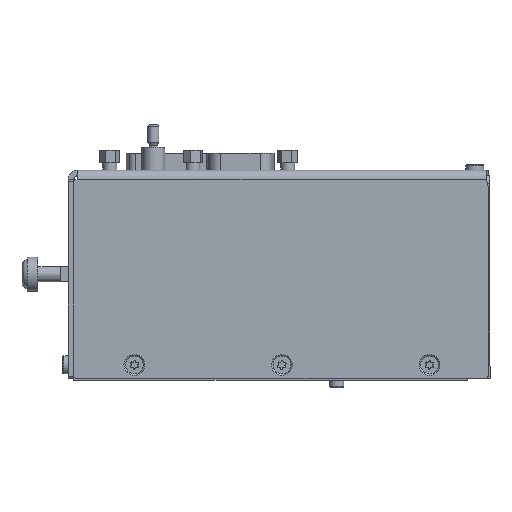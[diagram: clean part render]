
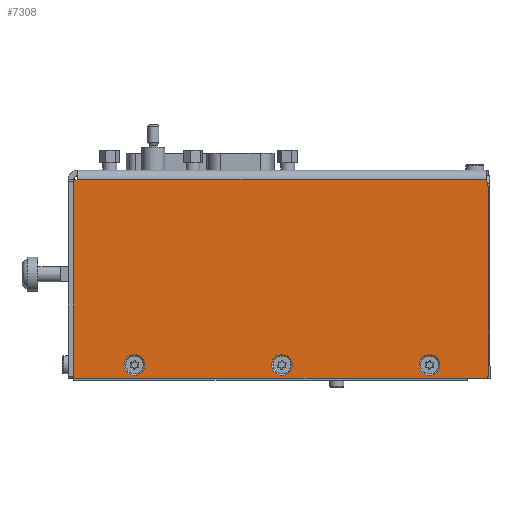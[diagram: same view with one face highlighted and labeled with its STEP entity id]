
A CAD part, front view. The second image highlights one B-rep face of the part: STEP entity #7308.
In plain terms, the highlighted planar face has unit normal (0, -1, 0).
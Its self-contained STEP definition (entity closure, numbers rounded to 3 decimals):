
#333 = ORIENTED_EDGE ( 'NONE', *, *, #38795, .T. ) ;
#2054 = DIRECTION ( 'NONE',  ( 0., 0., -1. ) ) ;
#4054 = EDGE_CURVE ( 'NONE', #14342, #68916, #6814, .T. ) ;
#4090 = AXIS2_PLACEMENT_3D ( 'NONE', #69973, #36001, #2054 ) ;
#4634 = CARTESIAN_POINT ( 'NONE',  ( -10., -27.5, -24. ) ) ;
#4822 = VECTOR ( 'NONE', #57411, 1000. ) ;
#5873 = CIRCLE ( 'NONE', #4090, 2.75 ) ;
#6814 = LINE ( 'NONE', #18510, #52052 ) ;
#7088 = CARTESIAN_POINT ( 'NONE',  ( -103., -27.5, 25. ) ) ;
#7308 = ADVANCED_FACE ( 'NONE', ( #31278, #59668, #29493, #49922 ), #9768, .T. ) ;
#7921 = CARTESIAN_POINT ( 'NONE',  ( -10., -27.5, -26.75 ) ) ;
#8367 = LINE ( 'NONE', #29620, #4822 ) ;
#9461 = VERTEX_POINT ( 'NONE', #21009 ) ;
#9559 = DIRECTION ( 'NONE',  ( 0., -1., 0. ) ) ;
#9768 = PLANE ( 'NONE',  #35848 ) ;
#10304 = DIRECTION ( 'NONE',  ( 0., 0., -1. ) ) ;
#11488 = EDGE_LOOP ( 'NONE', ( #15430 ) ) ;
#13075 = AXIS2_PLACEMENT_3D ( 'NONE', #60952, #26950, #66650 ) ;
#14308 = ORIENTED_EDGE ( 'NONE', *, *, #67050, .T. ) ;
#14342 = VERTEX_POINT ( 'NONE', #52316 ) ;
#14605 = ORIENTED_EDGE ( 'NONE', *, *, #20191, .F. ) ;
#15430 = ORIENTED_EDGE ( 'NONE', *, *, #19721, .F. ) ;
#15962 = AXIS2_PLACEMENT_3D ( 'NONE', #54493, #20506, #60186 ) ;
#17204 = ORIENTED_EDGE ( 'NONE', *, *, #4054, .T. ) ;
#17281 = ORIENTED_EDGE ( 'NONE', *, *, #48892, .F. ) ;
#17617 = AXIS2_PLACEMENT_3D ( 'NONE', #67483, #33508, #73192 ) ;
#17840 = VERTEX_POINT ( 'NONE', #63260 ) ;
#18510 = CARTESIAN_POINT ( 'NONE',  ( -104., -27.5, -27.5 ) ) ;
#19363 = CARTESIAN_POINT ( 'NONE',  ( -103.5, -27.5, -27.5 ) ) ;
#19721 = EDGE_CURVE ( 'NONE', #58303, #58303, #55938, .T. ) ;
#20191 = EDGE_CURVE ( 'NONE', #43222, #43222, #64788, .T. ) ;
#20506 = DIRECTION ( 'NONE',  ( 0., -1., 0. ) ) ;
#21009 = CARTESIAN_POINT ( 'NONE',  ( -49., -27.5, -26.75 ) ) ;
#21090 = ORIENTED_EDGE ( 'NONE', *, *, #37850, .F. ) ;
#22619 = VERTEX_POINT ( 'NONE', #45181 ) ;
#22770 = CIRCLE ( 'NONE', #17617, 10. ) ;
#23864 = EDGE_LOOP ( 'NONE', ( #14605 ) ) ;
#26290 = EDGE_LOOP ( 'NONE', ( #17281 ) ) ;
#26950 = DIRECTION ( 'NONE',  ( 0., -1., 0. ) ) ;
#27142 = CIRCLE ( 'NONE', #15962, 0.5 ) ;
#29141 = ORIENTED_EDGE ( 'NONE', *, *, #50745, .T. ) ;
#29493 = FACE_BOUND ( 'NONE', #23864, .T. ) ;
#29620 = CARTESIAN_POINT ( 'NONE',  ( -49.25, -27.5, 25. ) ) ;
#30616 = DIRECTION ( 'NONE',  ( 0., -1., 0. ) ) ;
#31278 = FACE_BOUND ( 'NONE', #26290, .T. ) ;
#31949 = EDGE_CURVE ( 'NONE', #71355, #48369, #66061, .T. ) ;
#32226 = EDGE_CURVE ( 'NONE', #48369, #60243, #8367, .T. ) ;
#32475 = DIRECTION ( 'NONE',  ( 0., 0., 1. ) ) ;
#32572 = CIRCLE ( 'NONE', #38563, 0.5 ) ;
#33508 = DIRECTION ( 'NONE',  ( 0., -1., 0. ) ) ;
#34136 = VECTOR ( 'NONE', #72098, 1000. ) ;
#35848 = AXIS2_PLACEMENT_3D ( 'NONE', #38011, #49182, #49415 ) ;
#36001 = DIRECTION ( 'NONE',  ( 0., -1., 0. ) ) ;
#36322 = VERTEX_POINT ( 'NONE', #58759 ) ;
#36786 = ORIENTED_EDGE ( 'NONE', *, *, #32226, .T. ) ;
#37467 = ORIENTED_EDGE ( 'NONE', *, *, #49345, .T. ) ;
#37701 = ORIENTED_EDGE ( 'NONE', *, *, #31949, .T. ) ;
#37850 = EDGE_CURVE ( 'NONE', #71355, #36322, #22770, .T. ) ;
#38011 = CARTESIAN_POINT ( 'NONE',  ( -49.25, -27.5, 26. ) ) ;
#38420 = CARTESIAN_POINT ( 'NONE',  ( 5.5, -27.5, 26. ) ) ;
#38457 = EDGE_LOOP ( 'NONE', ( #36786, #65599, #17204, #333, #37467, #14308, #29141, #21090, #37701 ) ) ;
#38563 = AXIS2_PLACEMENT_3D ( 'NONE', #43499, #9559, #49208 ) ;
#38795 = EDGE_CURVE ( 'NONE', #68916, #52866, #32572, .T. ) ;
#40165 = CARTESIAN_POINT ( 'NONE',  ( 5.095, -27.5, 25. ) ) ;
#40691 = AXIS2_PLACEMENT_3D ( 'NONE', #4634, #44259, #10304 ) ;
#41291 = LINE ( 'NONE', #47070, #54596 ) ;
#41885 = CARTESIAN_POINT ( 'NONE',  ( -88., -27.5, -26.75 ) ) ;
#41981 = LINE ( 'NONE', #38420, #43757 ) ;
#43222 = VERTEX_POINT ( 'NONE', #7921 ) ;
#43499 = CARTESIAN_POINT ( 'NONE',  ( -103.5, -27.5, -27. ) ) ;
#43502 = CARTESIAN_POINT ( 'NONE',  ( -103.5, -27.5, 25. ) ) ;
#43757 = VECTOR ( 'NONE', #32475, 1000. ) ;
#44259 = DIRECTION ( 'NONE',  ( 0., -1., 0. ) ) ;
#45181 = CARTESIAN_POINT ( 'NONE',  ( 5., -27.5, -27.5 ) ) ;
#47070 = CARTESIAN_POINT ( 'NONE',  ( 5.5, -27.5, -27.5 ) ) ;
#47334 = CARTESIAN_POINT ( 'NONE',  ( -104., -27.5, -27. ) ) ;
#48369 = VERTEX_POINT ( 'NONE', #7088 ) ;
#48425 = EDGE_CURVE ( 'NONE', #60243, #14342, #72451, .T. ) ;
#48892 = EDGE_CURVE ( 'NONE', #9461, #9461, #5873, .T. ) ;
#49182 = DIRECTION ( 'NONE',  ( 0., -1., 0. ) ) ;
#49208 = DIRECTION ( 'NONE',  ( 0., 0., -1. ) ) ;
#49345 = EDGE_CURVE ( 'NONE', #52866, #22619, #41291, .T. ) ;
#49415 = DIRECTION ( 'NONE',  ( 0., 0., 1. ) ) ;
#49922 = FACE_OUTER_BOUND ( 'NONE', #38457, .T. ) ;
#50745 = EDGE_CURVE ( 'NONE', #17840, #36322, #41981, .T. ) ;
#52052 = VECTOR ( 'NONE', #58176, 1000. ) ;
#52316 = CARTESIAN_POINT ( 'NONE',  ( -104., -27.5, 24.5 ) ) ;
#52771 = DIRECTION ( 'NONE',  ( 1., 0., 0. ) ) ;
#52866 = VERTEX_POINT ( 'NONE', #19363 ) ;
#53921 = AXIS2_PLACEMENT_3D ( 'NONE', #64597, #30616, #70308 ) ;
#54493 = CARTESIAN_POINT ( 'NONE',  ( 5., -27.5, -27. ) ) ;
#54596 = VECTOR ( 'NONE', #52771, 1000. ) ;
#55938 = CIRCLE ( 'NONE', #13075, 2.75 ) ;
#57411 = DIRECTION ( 'NONE',  ( -1., 0., 0. ) ) ;
#58176 = DIRECTION ( 'NONE',  ( 0., 0., -1. ) ) ;
#58303 = VERTEX_POINT ( 'NONE', #41885 ) ;
#58759 = CARTESIAN_POINT ( 'NONE',  ( 5.5, -27.5, 23.252 ) ) ;
#59668 = FACE_BOUND ( 'NONE', #11488, .T. ) ;
#60186 = DIRECTION ( 'NONE',  ( 0., 0., -1. ) ) ;
#60243 = VERTEX_POINT ( 'NONE', #43502 ) ;
#60952 = CARTESIAN_POINT ( 'NONE',  ( -88., -27.5, -24. ) ) ;
#63260 = CARTESIAN_POINT ( 'NONE',  ( 5.5, -27.5, -27. ) ) ;
#64597 = CARTESIAN_POINT ( 'NONE',  ( -103.5, -27.5, 24.5 ) ) ;
#64788 = CIRCLE ( 'NONE', #40691, 2.75 ) ;
#65599 = ORIENTED_EDGE ( 'NONE', *, *, #48425, .T. ) ;
#66061 = LINE ( 'NONE', #66376, #34136 ) ;
#66376 = CARTESIAN_POINT ( 'NONE',  ( -49.25, -27.5, 25. ) ) ;
#66650 = DIRECTION ( 'NONE',  ( 0., 0., -1. ) ) ;
#67050 = EDGE_CURVE ( 'NONE', #22619, #17840, #27142, .T. ) ;
#67483 = CARTESIAN_POINT ( 'NONE',  ( 15., -27.5, 26.374 ) ) ;
#68916 = VERTEX_POINT ( 'NONE', #47334 ) ;
#69973 = CARTESIAN_POINT ( 'NONE',  ( -49., -27.5, -24. ) ) ;
#70308 = DIRECTION ( 'NONE',  ( 0., 0., -1. ) ) ;
#71355 = VERTEX_POINT ( 'NONE', #40165 ) ;
#72098 = DIRECTION ( 'NONE',  ( -1., 0., 0. ) ) ;
#72451 = CIRCLE ( 'NONE', #53921, 0.5 ) ;
#73192 = DIRECTION ( 'NONE',  ( 0., 0., -1. ) ) ;
